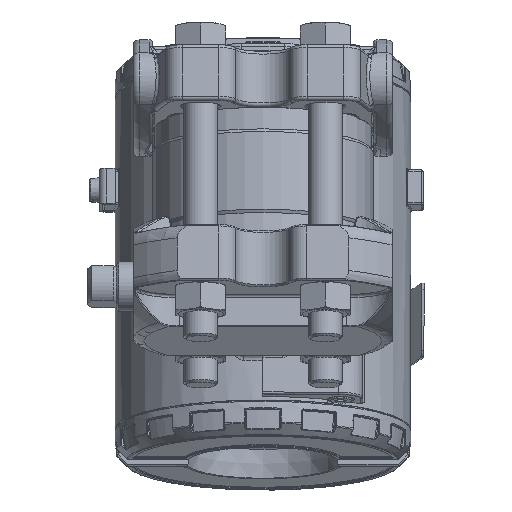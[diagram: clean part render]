
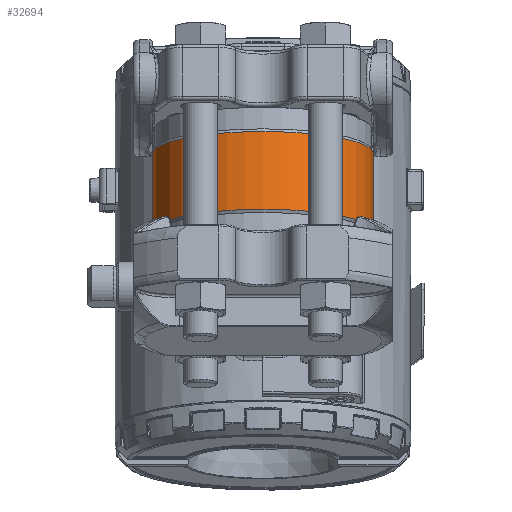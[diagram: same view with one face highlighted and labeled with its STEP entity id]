
A CAD part, left-side view. The second image highlights one B-rep face of the part: STEP entity #32694.
In plain terms, the highlighted cylindrical face has radius 31 mm (diameter 62 mm), a partial arc.
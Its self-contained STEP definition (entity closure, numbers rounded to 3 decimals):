
#1570=CYLINDRICAL_SURFACE('',#35370,31.);
#2499=FACE_OUTER_BOUND('',#4706,.T.);
#4706=EDGE_LOOP('',(#21790,#21791,#21792,#21793,#21794,#21795,#21796,#21797,
#21798,#21799));
#7015=LINE('',#50040,#8236);
#7016=LINE('',#50053,#8237);
#8236=VECTOR('',#39833,10.);
#8237=VECTOR('',#39834,10.);
#9454=CIRCLE('',#35350,31.);
#9457=CIRCLE('',#35353,31.);
#9463=CIRCLE('',#35363,31.);
#9464=CIRCLE('',#35364,31.);
#12087=B_SPLINE_CURVE_WITH_KNOTS('',3,(#50016,#50017,#50018,#50019,#50020),
 .UNSPECIFIED.,.F.,.F.,(4,1,4),(0.57,0.913,1.279),
 .UNSPECIFIED.);
#12089=B_SPLINE_CURVE_WITH_KNOTS('',3,(#50033,#50034,#50035,#50036,#50037,
#50038),.UNSPECIFIED.,.F.,.F.,(4,1,1,4),(0.,0.274,0.548,
0.708),.UNSPECIFIED.);
#12090=B_SPLINE_CURVE_WITH_KNOTS('',3,(#50041,#50042,#50043,#50044,#50045),
 .UNSPECIFIED.,.F.,.F.,(4,1,4),(0.57,0.913,1.279),
 .UNSPECIFIED.);
#12091=B_SPLINE_CURVE_WITH_KNOTS('',3,(#50047,#50048,#50049,#50050,#50051,
#50052),.UNSPECIFIED.,.F.,.F.,(4,1,1,4),(0.,0.274,
0.548,0.708),.UNSPECIFIED.);
#13335=VERTEX_POINT('',#49867);
#13337=VERTEX_POINT('',#49880);
#13338=VERTEX_POINT('',#49891);
#13350=VERTEX_POINT('',#49954);
#13351=VERTEX_POINT('',#49956);
#13352=VERTEX_POINT('',#49968);
#13354=VERTEX_POINT('',#50015);
#13357=VERTEX_POINT('',#50032);
#13358=VERTEX_POINT('',#50039);
#13359=VERTEX_POINT('',#50046);
#16490=EDGE_CURVE('',#13338,#13337,#9454,.T.);
#16494=EDGE_CURVE('',#13335,#13338,#9457,.T.);
#16506=EDGE_CURVE('',#13351,#13350,#9463,.T.);
#16509=EDGE_CURVE('',#13350,#13352,#9464,.T.);
#16513=EDGE_CURVE('',#13335,#13354,#12087,.T.);
#16517=EDGE_CURVE('',#13357,#13337,#12089,.T.);
#16518=EDGE_CURVE('',#13358,#13357,#7015,.T.);
#16519=EDGE_CURVE('',#13351,#13358,#12090,.T.);
#16520=EDGE_CURVE('',#13359,#13352,#12091,.T.);
#16521=EDGE_CURVE('',#13354,#13359,#7016,.T.);
#21790=ORIENTED_EDGE('',*,*,#16494,.T.);
#21791=ORIENTED_EDGE('',*,*,#16490,.T.);
#21792=ORIENTED_EDGE('',*,*,#16517,.F.);
#21793=ORIENTED_EDGE('',*,*,#16518,.F.);
#21794=ORIENTED_EDGE('',*,*,#16519,.F.);
#21795=ORIENTED_EDGE('',*,*,#16506,.T.);
#21796=ORIENTED_EDGE('',*,*,#16509,.T.);
#21797=ORIENTED_EDGE('',*,*,#16520,.F.);
#21798=ORIENTED_EDGE('',*,*,#16521,.F.);
#21799=ORIENTED_EDGE('',*,*,#16513,.F.);
#32694=ADVANCED_FACE('',(#2499),#1570,.T.);
#35350=AXIS2_PLACEMENT_3D('',#49892,#39787,#39788);
#35353=AXIS2_PLACEMENT_3D('',#49898,#39794,#39795);
#35363=AXIS2_PLACEMENT_3D('',#49957,#39816,#39817);
#35364=AXIS2_PLACEMENT_3D('',#49979,#39818,#39819);
#35370=AXIS2_PLACEMENT_3D('',#50031,#39831,#39832);
#39787=DIRECTION('center_axis',(0.,0.,1.));
#39788=DIRECTION('ref_axis',(-1.,0.,0.));
#39794=DIRECTION('center_axis',(0.,0.,1.));
#39795=DIRECTION('ref_axis',(-1.,0.,0.));
#39816=DIRECTION('center_axis',(0.,0.,-1.));
#39817=DIRECTION('ref_axis',(-1.,0.,0.));
#39818=DIRECTION('center_axis',(0.,0.,-1.));
#39819=DIRECTION('ref_axis',(-1.,0.,0.));
#39831=DIRECTION('center_axis',(0.,0.,1.));
#39832=DIRECTION('ref_axis',(-1.,0.,0.));
#39833=DIRECTION('',(0.,0.,-1.));
#39834=DIRECTION('',(0.,0.,1.));
#49867=CARTESIAN_POINT('',(29.591,9.241,-11.134));
#49880=CARTESIAN_POINT('',(29.591,-9.241,-11.134));
#49891=CARTESIAN_POINT('',(-31.,0.,-11.134));
#49892=CARTESIAN_POINT('Origin',(0.,0.,-11.134));
#49898=CARTESIAN_POINT('Origin',(0.,0.,-11.134));
#49954=CARTESIAN_POINT('',(-31.,0.,11.134));
#49956=CARTESIAN_POINT('',(29.591,-9.241,11.134));
#49957=CARTESIAN_POINT('Origin',(0.,0.,11.134));
#49968=CARTESIAN_POINT('',(29.591,9.241,11.134));
#49979=CARTESIAN_POINT('Origin',(0.,0.,11.134));
#50015=CARTESIAN_POINT('',(28.645,11.853,-5.));
#50016=CARTESIAN_POINT('Ctrl Pts',(29.591,9.241,-11.133));
#50017=CARTESIAN_POINT('Ctrl Pts',(29.348,10.019,-10.419));
#50018=CARTESIAN_POINT('Ctrl Pts',(28.86,11.344,-8.57));
#50019=CARTESIAN_POINT('Ctrl Pts',(28.645,11.853,-6.218));
#50020=CARTESIAN_POINT('Ctrl Pts',(28.645,11.853,-5.));
#50031=CARTESIAN_POINT('Origin',(0.,0.,0.));
#50032=CARTESIAN_POINT('',(28.645,-11.853,-5.));
#50033=CARTESIAN_POINT('Ctrl Pts',(28.645,-11.853,-5.));
#50034=CARTESIAN_POINT('Ctrl Pts',(28.645,-11.853,-5.913));
#50035=CARTESIAN_POINT('Ctrl Pts',(28.767,-11.563,-7.738));
#50036=CARTESIAN_POINT('Ctrl Pts',(29.174,-10.51,-9.79));
#50037=CARTESIAN_POINT('Ctrl Pts',(29.477,-9.605,-10.8));
#50038=CARTESIAN_POINT('Ctrl Pts',(29.59,-9.241,-11.134));
#50039=CARTESIAN_POINT('',(28.645,-11.853,5.));
#50040=CARTESIAN_POINT('',(28.645,-11.853,0.));
#50041=CARTESIAN_POINT('Ctrl Pts',(29.591,-9.241,11.133));
#50042=CARTESIAN_POINT('Ctrl Pts',(29.348,-10.019,10.419));
#50043=CARTESIAN_POINT('Ctrl Pts',(28.86,-11.344,8.57));
#50044=CARTESIAN_POINT('Ctrl Pts',(28.645,-11.853,6.218));
#50045=CARTESIAN_POINT('Ctrl Pts',(28.645,-11.853,5.));
#50046=CARTESIAN_POINT('',(28.645,11.853,5.));
#50047=CARTESIAN_POINT('Ctrl Pts',(28.645,11.853,5.));
#50048=CARTESIAN_POINT('Ctrl Pts',(28.645,11.853,5.913));
#50049=CARTESIAN_POINT('Ctrl Pts',(28.767,11.563,7.738));
#50050=CARTESIAN_POINT('Ctrl Pts',(29.174,10.51,9.79));
#50051=CARTESIAN_POINT('Ctrl Pts',(29.477,9.605,10.8));
#50052=CARTESIAN_POINT('Ctrl Pts',(29.59,9.241,11.134));
#50053=CARTESIAN_POINT('',(28.645,11.853,0.));
